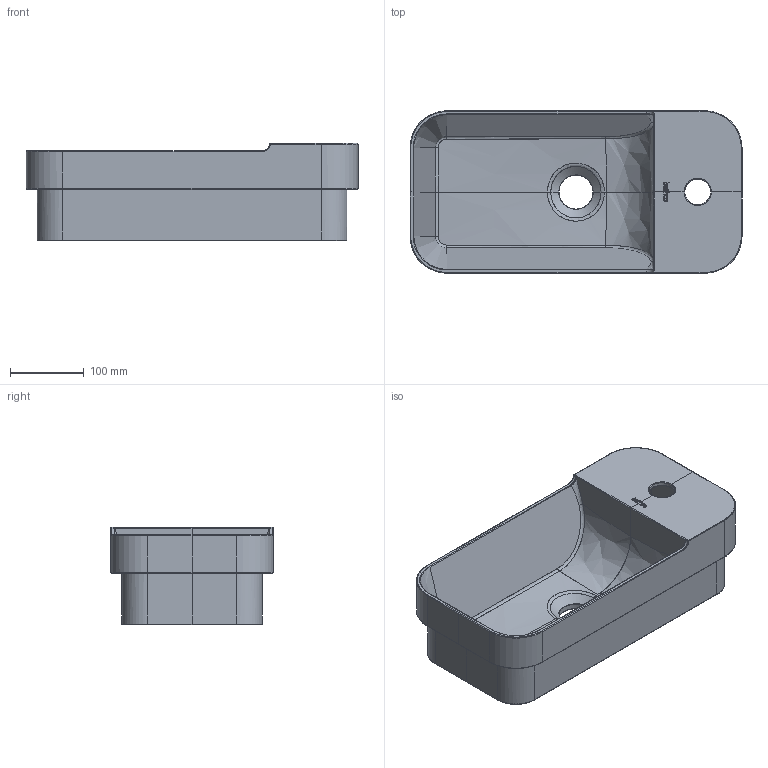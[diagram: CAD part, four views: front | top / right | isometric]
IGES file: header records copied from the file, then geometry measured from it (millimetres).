
Global section: file name: C:\Users\hp\Desktop\6065_Trento\6065_TRENTO.igs; native system: Rhinoceros ( Mar  7 2025 ); preprocessor: Trout Lake IGES 012 Mar  7 2025; date: 250401.101544; units: millimetre
Bounding box: 450 x 220 x 132.2 mm (x, y, z)
Surface area: 498495.9 mm2 (no closed solid volume)
Topology: 0 solids, 0 shells, 276 faces, 1963 edges, 1954 vertices
Faces by surface type: bspline 276
